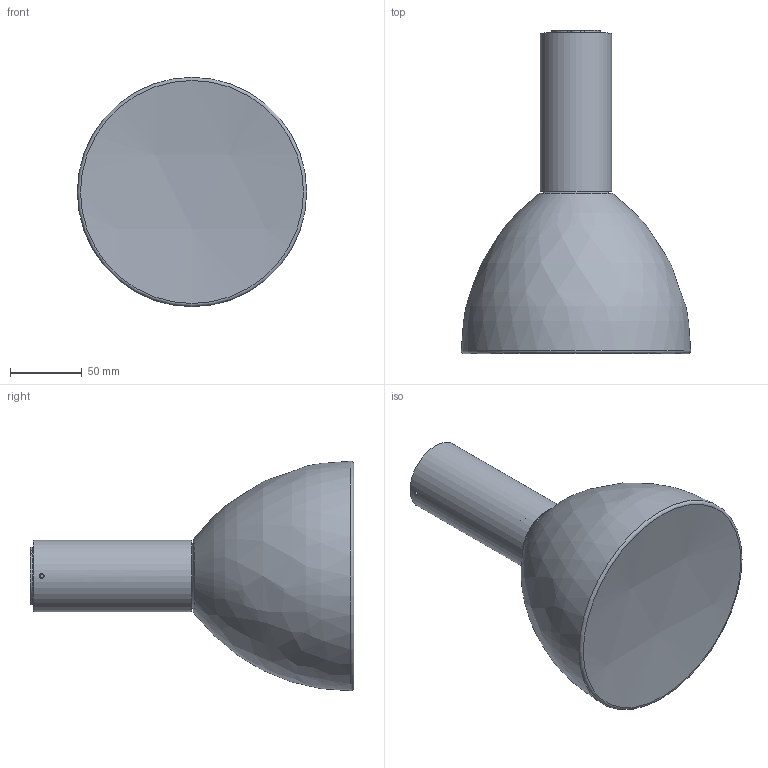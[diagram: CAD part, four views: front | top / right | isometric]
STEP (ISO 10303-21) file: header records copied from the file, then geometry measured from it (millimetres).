
FILE_DESCRIPTION(/* description */ (''),/* implementation_level */ '2;1');
FILE_NAME(/* name */ 'S:\UFFICIO TECNICO 2019\PRODOTTI ROTALIANA\SOUVLAKI\CONFIGURATORE\FILES X CONFIGURATORE\ipt INVENTOR\1SVH2001.stp',/* time_stamp */ '2024-03-13T17:57:24+01:00',/* author */ ('mtesta'),/* organization */ (''),/* preprocessor_version */ 'ST-DEVELOPER v18.1',/* originating_system */ 'Autodesk Inventor 2021',/* authorisation */ '');
FILE_SCHEMA (('AUTOMOTIVE_DESIGN { 1 0 10303 214 3 1 1 }'));
Length unit declared in the file: millimetre
Products named in the file (1): 1SVH2001
Bounding box: 160 x 225.65 x 160 mm (x, y, z)
Volume: 169887.3 mm3; surface area: 190905.5 mm2
Topology: 4 solids, 4 shells, 433 faces, 1019 edges, 627 vertices
Faces by surface type: torus 107, plane 96, cylinder 95, bspline 73, cone 58, sphere 4
Full cylindrical faces by diameter (mm): 1.567 x3, 2.459 x2, 3 x27, 3.2 x2, 3.242 x1, 3.25 x2, 4 x4, 6.5 x2, 39 x1, 42 x2, 46.5 x1, 48 x1, 48.2 x2, 50 x1
Entity records: 15380 total; most frequent: CARTESIAN_POINT 4975, DIRECTION 2144, ORIENTED_EDGE 2018, EDGE_CURVE 1009, AXIS2_PLACEMENT_3D 951, VERTEX_POINT 629, CIRCLE 590, EDGE_LOOP 510
